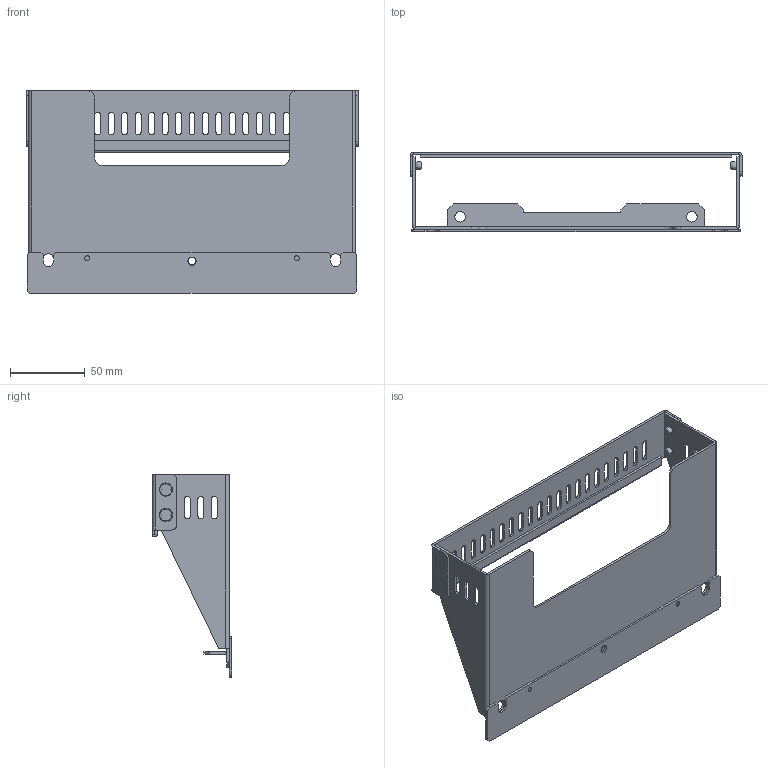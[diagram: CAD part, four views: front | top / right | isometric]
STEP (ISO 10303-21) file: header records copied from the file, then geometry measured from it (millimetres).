
FILE_DESCRIPTION((''),'2;1');
FILE_NAME('ZHZ-GA50V7_ASM','2020-10-19T',('anm'),('YASKAWA ELECTRIC CORCORATION'),'PRO/ENGINEER BY PARAMETRIC TECHNOLOGY CORPORATION, 2015440','PRO/ENGINEER BY PARAMETRIC TECHNOLOGY CORPORATION, 2015440','');
FILE_SCHEMA(('CONFIG_CONTROL_DESIGN'));
Length unit declared in the file: millimetre
Products named in the file (7): 400-124-986_1_1; 400-124-986_1_2; 400-124-986_1_ASM; 400-124-986_2; SK53BS_I2; 400-124-986_ASM; ZHZ-GA50V7_ASM
Assembly tree (9 placements, depth 4):
  ZHZ-GA50V7_ASM
    400-124-986_ASM
      400-124-986_1_ASM
        400-124-986_1_1
        400-124-986_1_2
      400-124-986_2
      SK53BS_I2  x4
Bounding box: 222 x 53 x 135.5 mm (x, y, z)
Volume: 72533.4 mm3; surface area: 96147.9 mm2
Topology: 9 solids, 9 shells, 327 faces, 847 edges, 538 vertices
Faces by surface type: plane 172, cylinder 131, cone 16, bspline 8
Entity records: 9673 total; most frequent: DIRECTION 1681, CARTESIAN_POINT 1676, ORIENTED_EDGE 1586, EDGE_CURVE 793, AXIS2_PLACEMENT_3D 569, VECTOR 543, LINE 543, VERTEX_POINT 508
